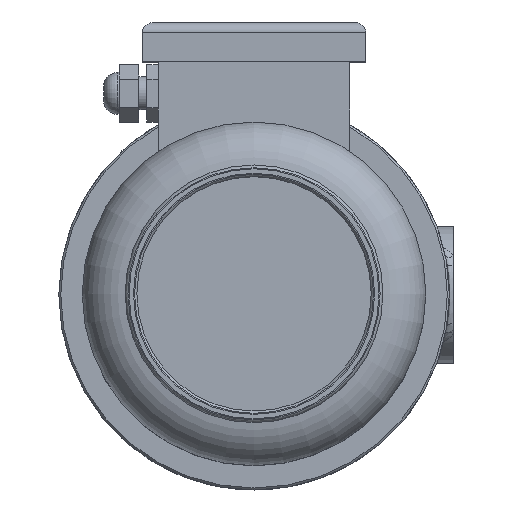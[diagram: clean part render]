
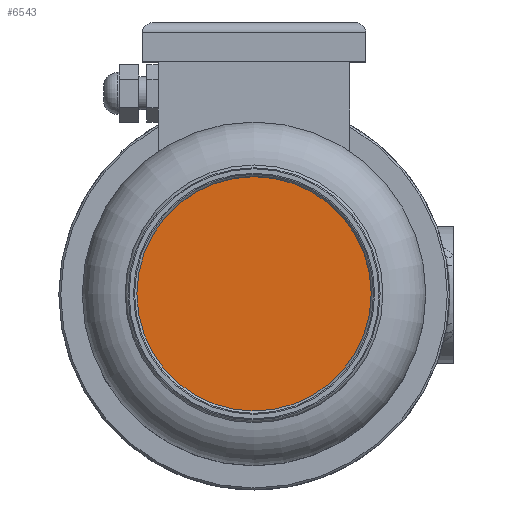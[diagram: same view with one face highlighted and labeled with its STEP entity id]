
A CAD part, top view. The second image highlights one B-rep face of the part: STEP entity #6543.
In plain terms, the highlighted planar face has unit normal (0, 0, 1).
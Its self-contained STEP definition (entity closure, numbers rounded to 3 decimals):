
#1394=PLANE('',#7179);
#3260=ORIENTED_EDGE('',*,*,#4201,.F.);
#4201=EDGE_CURVE('',#4837,#4837,#5153,.T.);
#4837=VERTEX_POINT('',#14429);
#5153=CIRCLE('',#7180,60.);
#5628=EDGE_LOOP('',(#3260));
#6108=FACE_BOUND('',#5628,.T.);
#6543=ADVANCED_FACE('',(#6108),#1394,.T.);
#7179=AXIS2_PLACEMENT_3D('',#14427,#8834,#8835);
#7180=AXIS2_PLACEMENT_3D('',#14428,#8836,#8837);
#8834=DIRECTION('',(0.,0.,1.));
#8835=DIRECTION('',(1.,0.,0.));
#8836=DIRECTION('',(0.,0.,-1.));
#8837=DIRECTION('',(-1.,0.,0.));
#14427=CARTESIAN_POINT('',(-60.,0.,597.584));
#14428=CARTESIAN_POINT('',(0.,0.,597.584));
#14429=CARTESIAN_POINT('',(-60.,0.,597.584));
